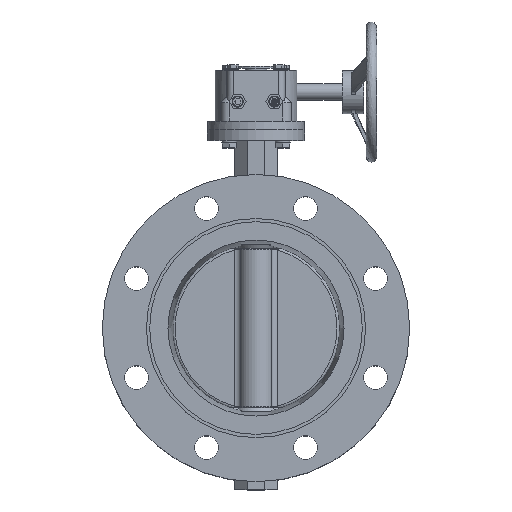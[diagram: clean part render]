
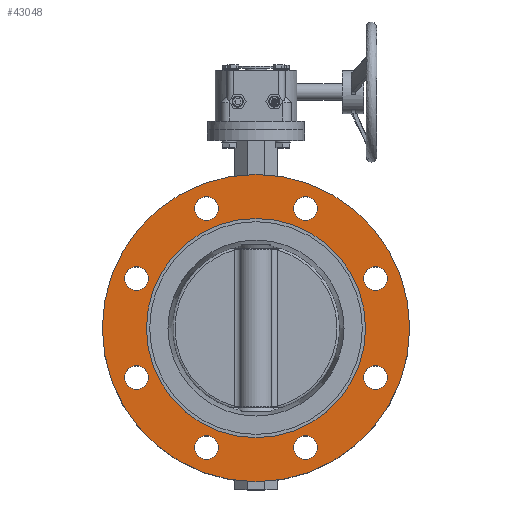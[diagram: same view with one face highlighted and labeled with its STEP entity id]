
A CAD part, top view. The second image highlights one B-rep face of the part: STEP entity #43048.
In plain terms, the highlighted planar face has unit normal (0, 0, -1).
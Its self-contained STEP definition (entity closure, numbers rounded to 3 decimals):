
#1183 = DIRECTION ( 'NONE',  ( 1., 0., 0. ) ) ;
#1966 = FACE_BOUND ( 'NONE', #40483, .T. ) ;
#2121 = ORIENTED_EDGE ( 'NONE', *, *, #45512, .T. ) ;
#2212 = FACE_OUTER_BOUND ( 'NONE', #44792, .T. ) ;
#2278 = DIRECTION ( 'NONE',  ( 0., 0., -1. ) ) ;
#2747 = CARTESIAN_POINT ( 'NONE',  ( -110.866, 45.922, 67. ) ) ;
#2949 = AXIS2_PLACEMENT_3D ( 'NONE', #2747, #49511, #15163 ) ;
#3207 = CIRCLE ( 'NONE', #18618, 11. ) ;
#3401 = ORIENTED_EDGE ( 'NONE', *, *, #13183, .T. ) ;
#3676 = VERTEX_POINT ( 'NONE', #49943 ) ;
#4302 = DIRECTION ( 'NONE',  ( 0., 0., 1. ) ) ;
#4896 = CIRCLE ( 'NONE', #5695, 11. ) ;
#4986 = DIRECTION ( 'NONE',  ( 0., 0., 1. ) ) ;
#5042 = EDGE_CURVE ( 'NONE', #44634, #44634, #28298, .T. ) ;
#5695 = AXIS2_PLACEMENT_3D ( 'NONE', #11060, #30147, #14362 ) ;
#6008 = FACE_BOUND ( 'NONE', #24212, .T. ) ;
#6646 = ORIENTED_EDGE ( 'NONE', *, *, #20373, .T. ) ;
#6719 = VERTEX_POINT ( 'NONE', #49429 ) ;
#7536 = CIRCLE ( 'NONE', #8360, 11. ) ;
#7724 = CARTESIAN_POINT ( 'NONE',  ( 56.922, -110.866, 67. ) ) ;
#7846 = CARTESIAN_POINT ( 'NONE',  ( -45.922, 110.866, 67. ) ) ;
#8360 = AXIS2_PLACEMENT_3D ( 'NONE', #31965, #4986, #1183 ) ;
#8619 = ORIENTED_EDGE ( 'NONE', *, *, #48641, .T. ) ;
#9322 = EDGE_CURVE ( 'NONE', #6719, #6719, #47174, .T. ) ;
#9466 = EDGE_LOOP ( 'NONE', ( #8619 ) ) ;
#9557 = FACE_BOUND ( 'NONE', #48275, .T. ) ;
#11060 = CARTESIAN_POINT ( 'NONE',  ( 110.866, -45.922, 67. ) ) ;
#11792 = VERTEX_POINT ( 'NONE', #7724 ) ;
#11922 = DIRECTION ( 'NONE',  ( 1., 0., 0. ) ) ;
#11977 = EDGE_CURVE ( 'NONE', #11792, #11792, #3207, .T. ) ;
#11999 = DIRECTION ( 'NONE',  ( -1., 0., 0. ) ) ;
#12748 = CARTESIAN_POINT ( 'NONE',  ( 0., 0., 67. ) ) ;
#13183 = EDGE_CURVE ( 'NONE', #42822, #42822, #40884, .T. ) ;
#13503 = EDGE_LOOP ( 'NONE', ( #19673 ) ) ;
#14362 = DIRECTION ( 'NONE',  ( 1., 0., 0. ) ) ;
#14905 = CIRCLE ( 'NONE', #18140, 11. ) ;
#15163 = DIRECTION ( 'NONE',  ( 1., 0., 0. ) ) ;
#15249 = ORIENTED_EDGE ( 'NONE', *, *, #38928, .T. ) ;
#15822 = ORIENTED_EDGE ( 'NONE', *, *, #9322, .T. ) ;
#16262 = CARTESIAN_POINT ( 'NONE',  ( 45.922, 110.866, 67. ) ) ;
#16611 = VERTEX_POINT ( 'NONE', #29539 ) ;
#17526 = DIRECTION ( 'NONE',  ( -1., 0., 0. ) ) ;
#18140 = AXIS2_PLACEMENT_3D ( 'NONE', #35027, #42620, #38811 ) ;
#18618 = AXIS2_PLACEMENT_3D ( 'NONE', #25437, #40976, #21634 ) ;
#19673 = ORIENTED_EDGE ( 'NONE', *, *, #20708, .T. ) ;
#20373 = EDGE_CURVE ( 'NONE', #3676, #3676, #4896, .T. ) ;
#20708 = EDGE_CURVE ( 'NONE', #27286, #27286, #35037, .T. ) ;
#21273 = CARTESIAN_POINT ( 'NONE',  ( -101.6, 0., 67. ) ) ;
#21634 = DIRECTION ( 'NONE',  ( 1., 0., 0. ) ) ;
#22203 = ORIENTED_EDGE ( 'NONE', *, *, #11977, .T. ) ;
#23154 = DIRECTION ( 'NONE',  ( 1., 0., 0. ) ) ;
#24212 = EDGE_LOOP ( 'NONE', ( #2121 ) ) ;
#24831 = FACE_BOUND ( 'NONE', #31378, .T. ) ;
#25080 = PLANE ( 'NONE',  #31271 ) ;
#25437 = CARTESIAN_POINT ( 'NONE',  ( 45.922, -110.866, 67. ) ) ;
#25744 = CARTESIAN_POINT ( 'NONE',  ( -110.866, -45.922, 67. ) ) ;
#26677 = AXIS2_PLACEMENT_3D ( 'NONE', #16262, #31812, #47285 ) ;
#27286 = VERTEX_POINT ( 'NONE', #31129 ) ;
#28298 = CIRCLE ( 'NONE', #26677, 11. ) ;
#28647 = DIRECTION ( 'NONE',  ( 0., 0., -1. ) ) ;
#29539 = CARTESIAN_POINT ( 'NONE',  ( -34.922, -110.866, 67. ) ) ;
#30147 = DIRECTION ( 'NONE',  ( 0., 0., 1. ) ) ;
#31082 = AXIS2_PLACEMENT_3D ( 'NONE', #7846, #4302, #11922 ) ;
#31129 = CARTESIAN_POINT ( 'NONE',  ( -99.866, -45.922, 67. ) ) ;
#31271 = AXIS2_PLACEMENT_3D ( 'NONE', #21273, #28647, #40623 ) ;
#31378 = EDGE_LOOP ( 'NONE', ( #6646 ) ) ;
#31812 = DIRECTION ( 'NONE',  ( 0., 0., 1. ) ) ;
#31965 = CARTESIAN_POINT ( 'NONE',  ( 110.866, 45.922, 67. ) ) ;
#32893 = CARTESIAN_POINT ( 'NONE',  ( -99.866, 45.922, 67. ) ) ;
#33166 = EDGE_LOOP ( 'NONE', ( #15822 ) ) ;
#33209 = CARTESIAN_POINT ( 'NONE',  ( 56.922, 110.866, 67. ) ) ;
#33878 = ORIENTED_EDGE ( 'NONE', *, *, #5042, .T. ) ;
#35027 = CARTESIAN_POINT ( 'NONE',  ( -45.922, -110.866, 67. ) ) ;
#35037 = CIRCLE ( 'NONE', #44710, 11. ) ;
#35696 = EDGE_LOOP ( 'NONE', ( #41767 ) ) ;
#35999 = VERTEX_POINT ( 'NONE', #39274 ) ;
#36588 = FACE_BOUND ( 'NONE', #33166, .T. ) ;
#37323 = FACE_BOUND ( 'NONE', #44504, .T. ) ;
#37570 = FACE_BOUND ( 'NONE', #35696, .T. ) ;
#38811 = DIRECTION ( 'NONE',  ( 1., 0., 0. ) ) ;
#38928 = EDGE_CURVE ( 'NONE', #40016, #40016, #48901, .T. ) ;
#39025 = CARTESIAN_POINT ( 'NONE',  ( -142.5, 0., 67. ) ) ;
#39255 = AXIS2_PLACEMENT_3D ( 'NONE', #47784, #2278, #17526 ) ;
#39274 = CARTESIAN_POINT ( 'NONE',  ( 121.866, 45.922, 67. ) ) ;
#39339 = EDGE_CURVE ( 'NONE', #35999, #35999, #7536, .T. ) ;
#39895 = AXIS2_PLACEMENT_3D ( 'NONE', #12748, #46834, #11999 ) ;
#40016 = VERTEX_POINT ( 'NONE', #43567 ) ;
#40483 = EDGE_LOOP ( 'NONE', ( #22203 ) ) ;
#40623 = DIRECTION ( 'NONE',  ( -1., 0., 0. ) ) ;
#40863 = FACE_BOUND ( 'NONE', #9466, .T. ) ;
#40884 = CIRCLE ( 'NONE', #39255, 142.5 ) ;
#40976 = DIRECTION ( 'NONE',  ( 0., 0., 1. ) ) ;
#41008 = VERTEX_POINT ( 'NONE', #32893 ) ;
#41767 = ORIENTED_EDGE ( 'NONE', *, *, #39339, .T. ) ;
#42620 = DIRECTION ( 'NONE',  ( 0., 0., 1. ) ) ;
#42822 = VERTEX_POINT ( 'NONE', #39025 ) ;
#43048 = ADVANCED_FACE ( 'NONE', ( #37323, #9557, #40863, #48215, #6008, #1966, #24831, #37570, #2212, #36588 ), #25080, .T. ) ;
#43558 = CIRCLE ( 'NONE', #2949, 11. ) ;
#43567 = CARTESIAN_POINT ( 'NONE',  ( -34.922, 110.866, 67. ) ) ;
#44504 = EDGE_LOOP ( 'NONE', ( #33878 ) ) ;
#44634 = VERTEX_POINT ( 'NONE', #33209 ) ;
#44710 = AXIS2_PLACEMENT_3D ( 'NONE', #25744, #46064, #23154 ) ;
#44792 = EDGE_LOOP ( 'NONE', ( #3401 ) ) ;
#45512 = EDGE_CURVE ( 'NONE', #16611, #16611, #14905, .T. ) ;
#46064 = DIRECTION ( 'NONE',  ( 0., 0., 1. ) ) ;
#46834 = DIRECTION ( 'NONE',  ( 0., 0., 1. ) ) ;
#47174 = CIRCLE ( 'NONE', #39895, 101.6 ) ;
#47285 = DIRECTION ( 'NONE',  ( 1., 0., 0. ) ) ;
#47784 = CARTESIAN_POINT ( 'NONE',  ( 0., 0., 67. ) ) ;
#48215 = FACE_BOUND ( 'NONE', #13503, .T. ) ;
#48275 = EDGE_LOOP ( 'NONE', ( #15249 ) ) ;
#48641 = EDGE_CURVE ( 'NONE', #41008, #41008, #43558, .T. ) ;
#48901 = CIRCLE ( 'NONE', #31082, 11. ) ;
#49429 = CARTESIAN_POINT ( 'NONE',  ( -101.6, 0., 67. ) ) ;
#49511 = DIRECTION ( 'NONE',  ( 0., 0., 1. ) ) ;
#49943 = CARTESIAN_POINT ( 'NONE',  ( 121.866, -45.922, 67. ) ) ;
